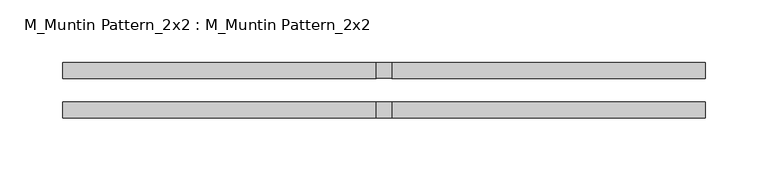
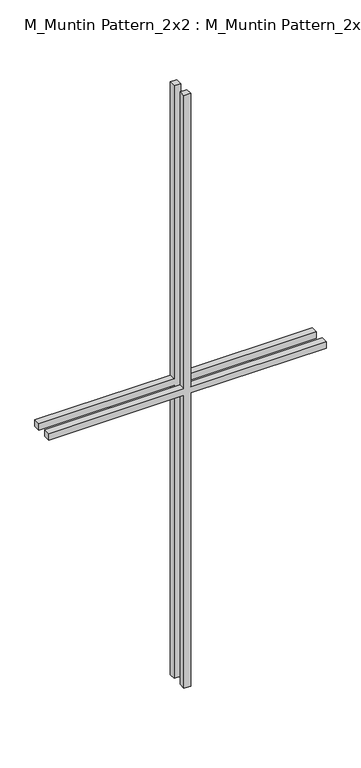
"""IFC4 building model written with IfcOpenShell, lengths in millimetres: proxy geometry, M_Muntin Pattern_2x2 : M_Muntin Pattern_2x2."""

from ifc_helpers import new_model, si_unit, frame, origin, place, context, project, spatial, polyline, outline, extrude, source, transform, mapped, element, save


def m_muntin_pattern_2x2_m_muntin_pattern_2x2_df03f74c(model_context):
    return source(origin(), model_context, "Body", "SweptSolid", [
        extrude(outline(polyline([(586.5, -6.35), (586.5, -256.7375), (573.8, -256.7375), (573.8, -6.35), (0.0, -6.35), (0.0, 6.35), (573.8, 6.35), (573.8, 256.7375), (586.5, 256.7375), (586.5, 6.35), (1160.3, 6.35), (1160.3, -6.35), (586.5, -6.35)])), frame((0.0, -22.225, 0.0), z_axis=(0.0, 1.0, 0.0), x_axis=(0.0, 0.0, 1.0)), (0.0, 0.0, 1.0), 12.7),
        extrude(outline(polyline([(586.5, -6.35), (586.5, -256.7375), (573.8, -256.7375), (573.8, -6.35), (0.0, -6.35), (0.0, 6.35), (573.8, 6.35), (573.8, 256.7375), (586.5, 256.7375), (586.5, 6.35), (1160.3, 6.35), (1160.3, -6.35), (586.5, -6.35)])), frame((0.0, 9.525, 0.0), z_axis=(0.0, 1.0, 0.0), x_axis=(0.0, 0.0, 1.0)), (0.0, 0.0, 1.0), 12.7),
    ])


if __name__ == "__main__":
    model = new_model("IFC4")
    model_context = context("Model", 3, world=origin())
    ifc_project = project(units=[si_unit("LENGTHUNIT", "METRE", prefix="MILLI")], contexts=[model_context])
    site = spatial("IfcSite", under=ifc_project)
    building = spatial("IfcBuilding", under=site)
    placement = place(None, origin())
    m_muntin_pattern_2x2_m_muntin_pattern_2x2_shape = m_muntin_pattern_2x2_m_muntin_pattern_2x2_df03f74c(model_context)
    element("IfcBuildingElementProxy", 1, Name="M_Muntin Pattern_2x2 : M_Muntin Pattern_2x2", ObjectType="M_Muntin Pattern_2x2 : M_Muntin Pattern_2x2", at=placement, inside=building, context=model_context, shape_type="MappedRepresentation", body=[
        mapped(m_muntin_pattern_2x2_m_muntin_pattern_2x2_shape, transform((0.0, 0.0, 0.0), x_axis=(1.0, 0.0, 0.0), y_axis=(0.0, 1.0, 0.0), z_axis=(0.0, 0.0, 1.0))),
    ])
    save(model, "model.ifc")
